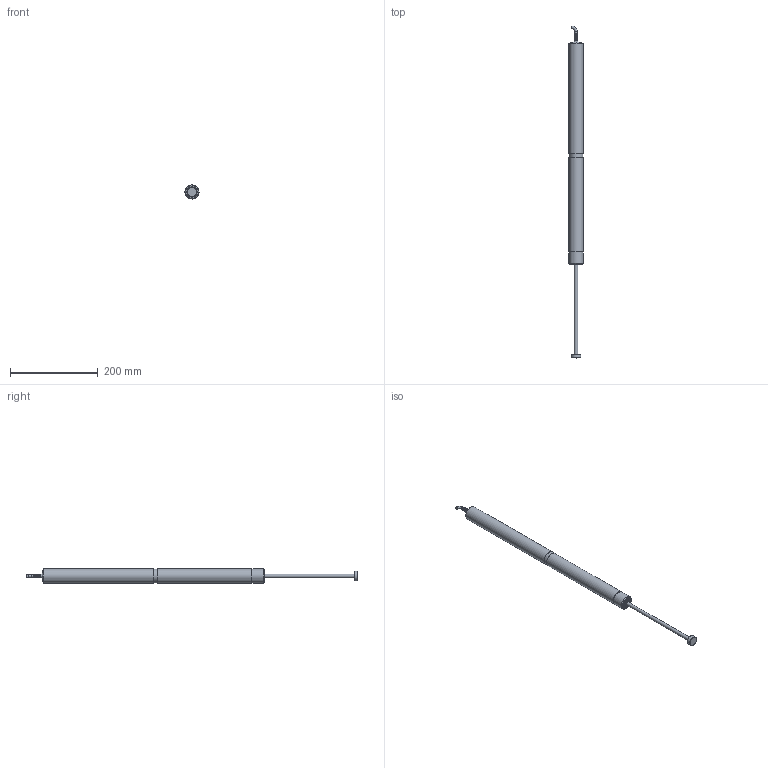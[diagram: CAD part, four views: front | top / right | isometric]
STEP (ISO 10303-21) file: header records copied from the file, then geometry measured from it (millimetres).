
FILE_DESCRIPTION( ( 'STEP AP203' ), '1' );
FILE_NAME( 'N:/Engineering/CAD_Solid/Magnescale/DK-Serie/DK 205 PR5/Kunden 3D/DK205PR5.stp', '2010-08-11T09:36:30', ( ' ' ), ( ' ' ), 'XStep 1.0', ' ', ' ' );
FILE_SCHEMA( ( 'CONFIG_CONTROL_DESIGN) ( )' ) );
Length unit declared in the file: metre
Products named in the file (5): 1; 2; 3; 4; 5
Bounding box: 32 x 756.4 x 32 mm (x, y, z)
Surface area: 60471.9 mm2 (no closed solid volume)
Topology: 0 solids, 50 shells, 50 faces, 137 edges, 109 vertices
Faces by surface type: plane 22, cone 17, cylinder 10, torus 1
Full cylindrical faces by diameter (mm): 5.8 x1, 7.367 x1, 8 x1, 22 x1, 26 x1, 31.4 x1, 31.7 x1, 32 x3
Entity records: 1655 total; most frequent: DIRECTION 312, CARTESIAN_POINT 257, AXIS2_PLACEMENT_3D 156, FACE_BOUND 101, EDGE_LOOP 101, ORIENTED_EDGE 101, EDGE_CURVE 101, VERTEX_POINT 101
